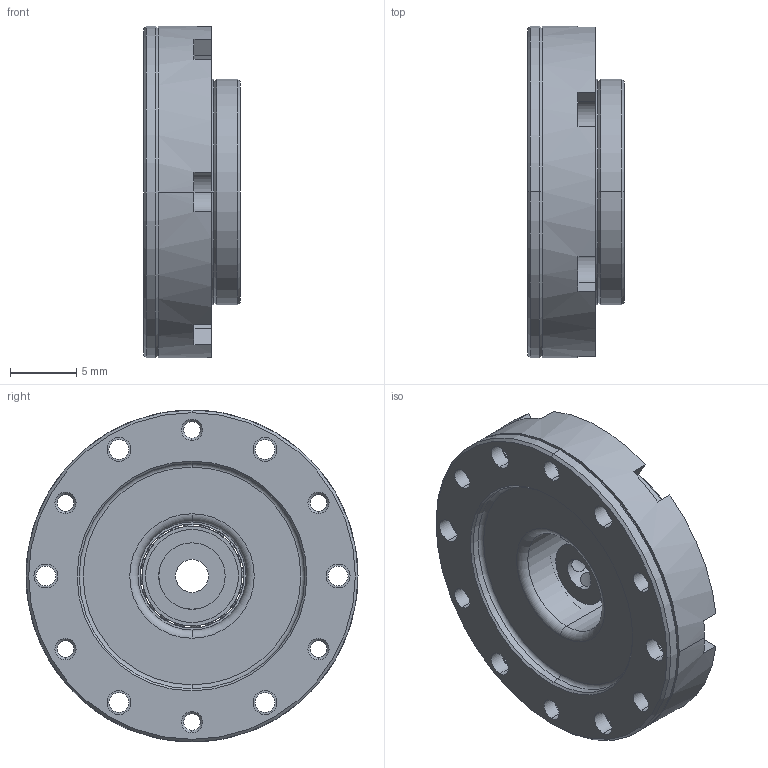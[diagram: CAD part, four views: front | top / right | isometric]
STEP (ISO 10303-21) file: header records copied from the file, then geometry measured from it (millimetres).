
FILE_DESCRIPTION (( 'STEP AP214' ), '1' );
FILE_NAME ('SHD-03-xxx.STEP', '2022-05-24T09:08:17', ( 'PC' ), ( 'Microsoft' ), 'SwSTEP 2.0', 'SolidWorks 2016', '' );
FILE_SCHEMA (( 'AUTOMOTIVE_DESIGN' ));
Length unit declared in the file: millimetre
Products named in the file (15): SHD-03-柔轮SLDPRT_預設; SHD-03-詩謫; SHD-03蝠脫粣創_蕼偞; SHD-03-交叉轴承外圈; SHD-03-交叉轴承内圈; SHD-03-xxx; M1.2-蹟佪_蕼偞; 17x16x0.5 O型圈_預設; SHD-03疏楷汜ん_蕼偞; 柔性轴承-装配体1_預設; CSF-03柔性轴承保持架_預設; 柔性轴承刚珠-0.8_預設; 柔性轴承内圈_預設; ﾈ瞎ﾔﾖ盖ﾐﾍ篳ｦ_猤ﾔO; SHD-03-芧謫_蕼偞
Assembly tree (36 placements, depth 4):
  SHD-03-xxx
    SHD-03蝠脫粣創_蕼偞
      SHD-03-交叉轴承内圈
      SHD-03-交叉轴承外圈
    SHD-03-詩謫
    SHD-03-柔轮SLDPRT_預設
    SHD-03疏楷汜ん_蕼偞
      SHD-03-芧謫_蕼偞
      柔性轴承-装配体1_預設
        ﾈ瞎ﾔﾖ盖ﾐﾍ篳ｦ_猤ﾔO
        柔性轴承内圈_預設
        柔性轴承刚珠-0.8_預設  x20
        CSF-03柔性轴承保持架_預設
    17x16x0.5 O型圈_預設
    M1.2-蹟佪_蕼偞  x4
Bounding box: 7.3 x 25 x 25 mm (x, y, z)
Volume: 2117.2 mm3; surface area: 4528.9 mm2
Topology: 33 solids, 33 shells, 2397 faces, 6991 edges, 4633 vertices
Faces by surface type: cylinder 1561, plane 605, cone 149, torus 42, sphere 40
Entity records: 89550 total; most frequent: CARTESIAN_POINT 31424, ORIENTED_EDGE 13550, DIRECTION 9982, EDGE_CURVE 6775, VERTEX_POINT 4487, AXIS2_PLACEMENT_3D 3819, B_SPLINE_CURVE_WITH_KNOTS 2974, EDGE_LOOP 2436
